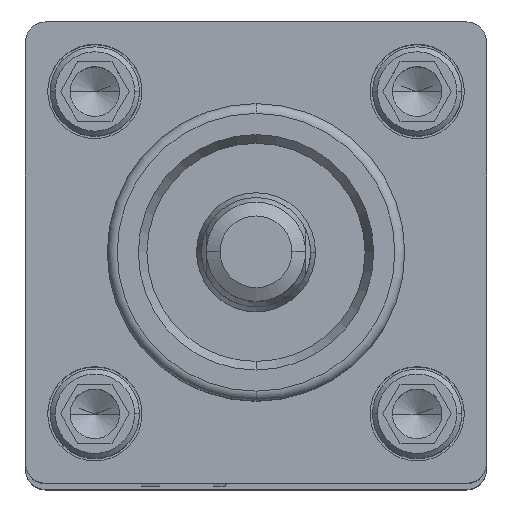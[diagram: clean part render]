
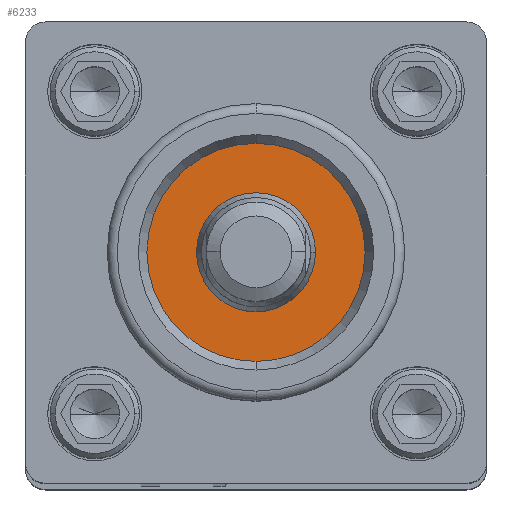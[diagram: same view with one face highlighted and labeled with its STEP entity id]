
A CAD part, top view. The second image highlights one B-rep face of the part: STEP entity #6233.
In plain terms, the highlighted planar face has unit normal (0, 0, 1).
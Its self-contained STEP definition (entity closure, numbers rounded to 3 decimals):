
#203 = VERTEX_POINT ( 'NONE', #10576 ) ;
#385 = AXIS2_PLACEMENT_3D ( 'NONE', #8925, #5215, #9833 ) ;
#648 = DIRECTION ( 'NONE',  ( 0., 0., 1. ) ) ;
#728 = CARTESIAN_POINT ( 'NONE',  ( 0., 0., 92.25 ) ) ;
#798 = ORIENTED_EDGE ( 'NONE', *, *, #9842, .F. ) ;
#1053 = ORIENTED_EDGE ( 'NONE', *, *, #6762, .F. ) ;
#1057 = AXIS2_PLACEMENT_3D ( 'NONE', #10960, #11915, #5370 ) ;
#1346 = EDGE_CURVE ( 'NONE', #5923, #10321, #10181, .T. ) ;
#1793 = ORIENTED_EDGE ( 'NONE', *, *, #1346, .F. ) ;
#1975 = EDGE_LOOP ( 'NONE', ( #798, #1793 ) ) ;
#3244 = CARTESIAN_POINT ( 'NONE',  ( 0., 0., 92.25 ) ) ;
#3823 = CIRCLE ( 'NONE', #4595, 6. ) ;
#3881 = CARTESIAN_POINT ( 'NONE',  ( 0., 11., 92.25 ) ) ;
#4120 = ORIENTED_EDGE ( 'NONE', *, *, #10691, .F. ) ;
#4181 = DIRECTION ( 'NONE',  ( 0., 0., 1. ) ) ;
#4595 = AXIS2_PLACEMENT_3D ( 'NONE', #728, #648, #10003 ) ;
#5215 = DIRECTION ( 'NONE',  ( 0., 0., -1. ) ) ;
#5370 = DIRECTION ( 'NONE',  ( 0., 1., 0. ) ) ;
#5466 = DIRECTION ( 'NONE',  ( 0., 1., 0. ) ) ;
#5540 = AXIS2_PLACEMENT_3D ( 'NONE', #7318, #11088, #5466 ) ;
#5564 = CIRCLE ( 'NONE', #10097, 6. ) ;
#5683 = CARTESIAN_POINT ( 'NONE',  ( 0., -11., 92.25 ) ) ;
#5923 = VERTEX_POINT ( 'NONE', #5683 ) ;
#6171 = EDGE_LOOP ( 'NONE', ( #1053, #4120 ) ) ;
#6233 = ADVANCED_FACE ( 'NONE', ( #10400, #7041 ), #9918, .F. ) ;
#6762 = EDGE_CURVE ( 'NONE', #8133, #203, #5564, .T. ) ;
#7041 = FACE_OUTER_BOUND ( 'NONE', #1975, .T. ) ;
#7318 = CARTESIAN_POINT ( 'NONE',  ( 0., 0., 92.25 ) ) ;
#7922 = CARTESIAN_POINT ( 'NONE',  ( 0., -6., 92.25 ) ) ;
#8133 = VERTEX_POINT ( 'NONE', #7922 ) ;
#8751 = DIRECTION ( 'NONE',  ( 0., -1., 0. ) ) ;
#8925 = CARTESIAN_POINT ( 'NONE',  ( 0., 0., 92.25 ) ) ;
#9833 = DIRECTION ( 'NONE',  ( 0., 1., 0. ) ) ;
#9842 = EDGE_CURVE ( 'NONE', #10321, #5923, #12011, .T. ) ;
#9918 = PLANE ( 'NONE',  #385 ) ;
#10003 = DIRECTION ( 'NONE',  ( 0., -1., 0. ) ) ;
#10097 = AXIS2_PLACEMENT_3D ( 'NONE', #3244, #4181, #8751 ) ;
#10181 = CIRCLE ( 'NONE', #1057, 11. ) ;
#10321 = VERTEX_POINT ( 'NONE', #3881 ) ;
#10400 = FACE_BOUND ( 'NONE', #6171, .T. ) ;
#10576 = CARTESIAN_POINT ( 'NONE',  ( 0., 6., 92.25 ) ) ;
#10691 = EDGE_CURVE ( 'NONE', #203, #8133, #3823, .T. ) ;
#10960 = CARTESIAN_POINT ( 'NONE',  ( 0., 0., 92.25 ) ) ;
#11088 = DIRECTION ( 'NONE',  ( 0., 0., -1. ) ) ;
#11915 = DIRECTION ( 'NONE',  ( 0., 0., -1. ) ) ;
#12011 = CIRCLE ( 'NONE', #5540, 11. ) ;
